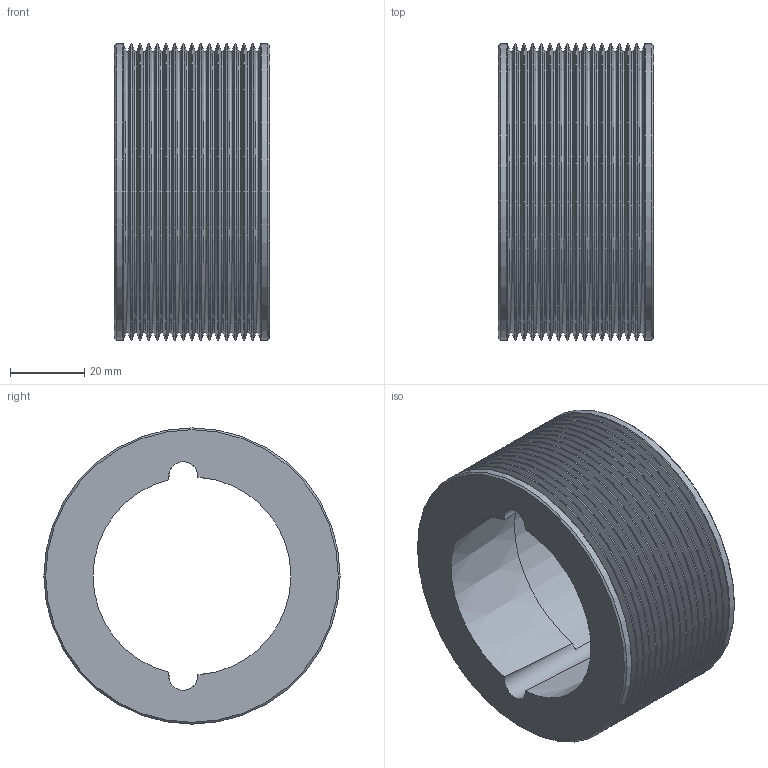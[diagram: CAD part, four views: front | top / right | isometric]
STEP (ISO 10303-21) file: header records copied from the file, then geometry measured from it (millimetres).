
FILE_DESCRIPTION(/* description */ (''),/* implementation_level */ '2;1');
FILE_NAME(/* name */ 'C:\Users\stagistacad\Desktop\48116080.stp',/* time_stamp */ '2018-06-14T10:36:05+02:00',/* author */ ('stagistacad'),/* organization */ (''),/* preprocessor_version */ 'ST-DEVELOPER v15.6',/* originating_system */ 'Autodesk Inventor 2015',/* authorisation */ '');
FILE_SCHEMA (('AUTOMOTIVE_DESIGN { 1 0 10303 214 3 1 1 }'));
Length unit declared in the file: millimetre
Products named in the file (1): 48116080
Bounding box: 42 x 80 x 80 mm (x, y, z)
Volume: 91178.1 mm3; surface area: 34398 mm2
Topology: 1 solids, 1 shells, 89 faces, 193 edges, 106 vertices
Faces by surface type: cone 40, torus 36, cylinder 8, plane 5
Full cylindrical faces by diameter (mm): 80 x2
Entity records: 2166 total; most frequent: CARTESIAN_POINT 459, DIRECTION 384, ORIENTED_EDGE 248, AXIS2_PLACEMENT_3D 189, EDGE_LOOP 160, EDGE_CURVE 124, VERTEX_POINT 106, CIRCLE 99
